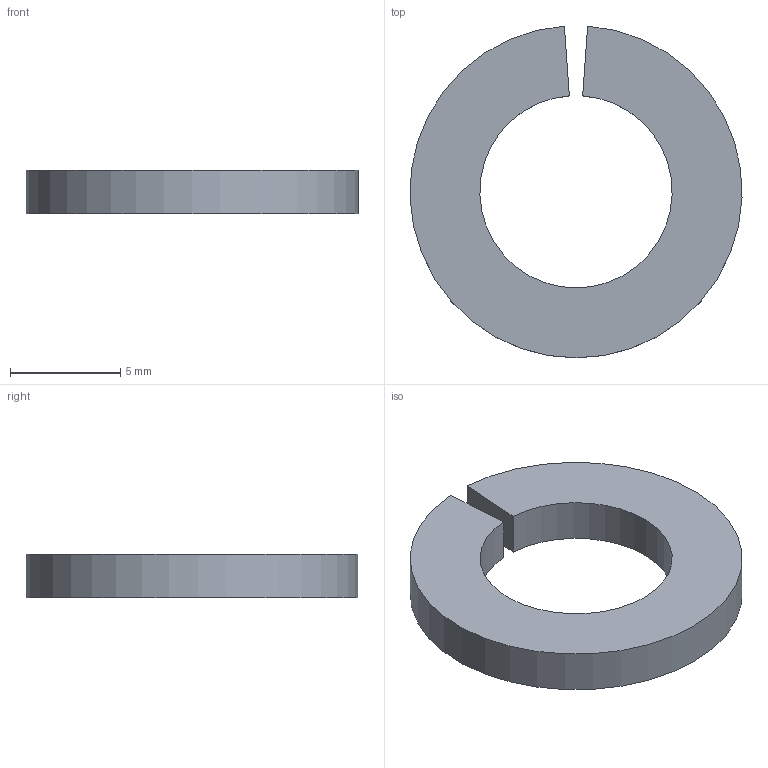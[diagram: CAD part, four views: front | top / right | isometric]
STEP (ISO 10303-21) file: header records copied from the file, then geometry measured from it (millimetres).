
FILE_DESCRIPTION(/* description */ (''),/* implementation_level */ '2;1');
FILE_NAME(/* name */ 'E:/hidden/Engineering Projects/Leslie Controls SuperTyfon/CAD/Components/13077 Lock Washer.step',/* time_stamp */ '2022-08-18T19:34:34+10:00',/* author */ (''),/* organization */ (''),/* preprocessor_version */ 'ST-DEVELOPER v19',/* originating_system */ 'Autodesk Translation Framework v11.7.0.108',/* authorisation */ '');
FILE_SCHEMA (('AUTOMOTIVE_DESIGN { 1 0 10303 214 3 1 1 }'));
Length unit declared in the file: inch
Products named in the file (1): 13077 Lock Washer
Bounding box: 15.07 x 15.06 x 1.98 mm (x, y, z)
Volume: 230.4 mm3; surface area: 390 mm2
Topology: 1 solids, 1 shells, 6 faces, 12 edges, 8 vertices
Faces by surface type: plane 4, cylinder 2
Entity records: 195 total; most frequent: DIRECTION 30, CARTESIAN_POINT 27, ORIENTED_EDGE 24, EDGE_CURVE 12, AXIS2_PLACEMENT_3D 11, LINE 8, VECTOR 8, VERTEX_POINT 8
